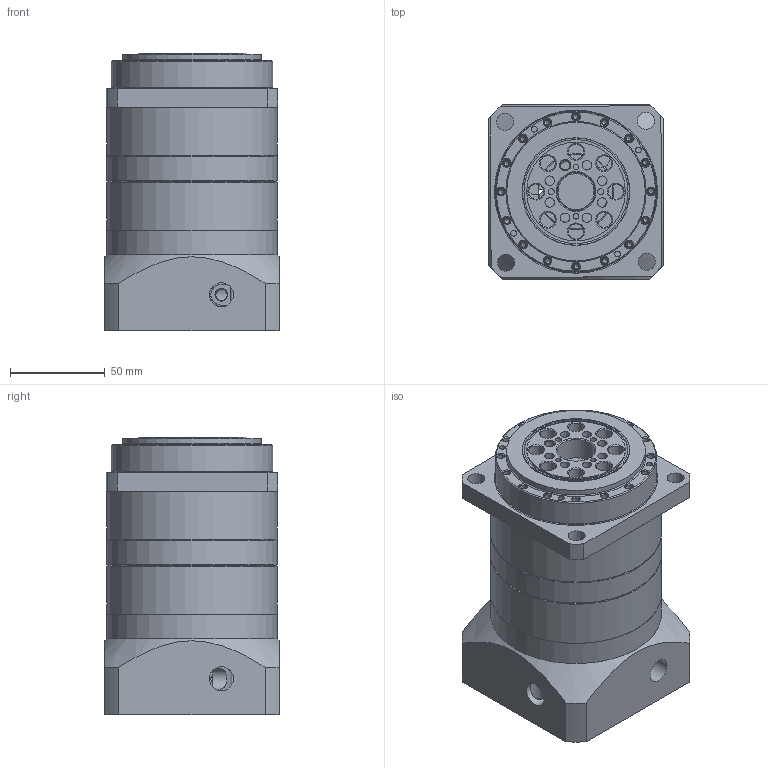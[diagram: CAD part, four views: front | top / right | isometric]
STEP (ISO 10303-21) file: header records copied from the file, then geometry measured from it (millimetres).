
FILE_DESCRIPTION (( 'STEP AP203' ), '1' );
FILE_NAME ('GNDU90L2-19-70-90-M6(20170119).STEP', '2017-01-19T03:45:10', ( 'user' ), ( '' ), 'SwSTEP 2.0', 'SolidWorks 2012', '' );
FILE_SCHEMA (( 'CONFIG_CONTROL_DESIGN' ));
Length unit declared in the file: millimetre
Products named in the file (1): GNDU90L2-19-70-90-M6(20170119)
Bounding box: 92 x 92 x 146.25 mm (x, y, z)
Volume: 616606.8 mm3; surface area: 184415.1 mm2
Topology: 8 solids, 8 shells, 538 faces, 1335 edges, 862 vertices
Faces by surface type: cylinder 249, cone 157, plane 128, bspline 4
Full cylindrical faces by diameter (mm): 2.5 x16, 3 x25, 3.5 x16, 5 x20, 5.5 x32, 6 x2, 6.6 x3, 6.8 x2, 8 x8, 9 x15, 12 x2, 12.7 x4, 16 x2, 19 x1, 20 x4, 23 x1, 33 x1, 34.77 x2, 40 x1, 42 x1, 45 x1, 50 x1, 52 x1, 54.8 x1, 55 x1, 56.7 x1, 64 x1, 65 x3, 67 x2, 68 x1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
Entity records: 15795 total; most frequent: CARTESIAN_POINT 4050, DIRECTION 2568, ORIENTED_EDGE 1790, AXIS2_PLACEMENT_3D 1189, EDGE_LOOP 1144, EDGE_CURVE 895, VERTEX_POINT 761, FACE_OUTER_BOUND 727
